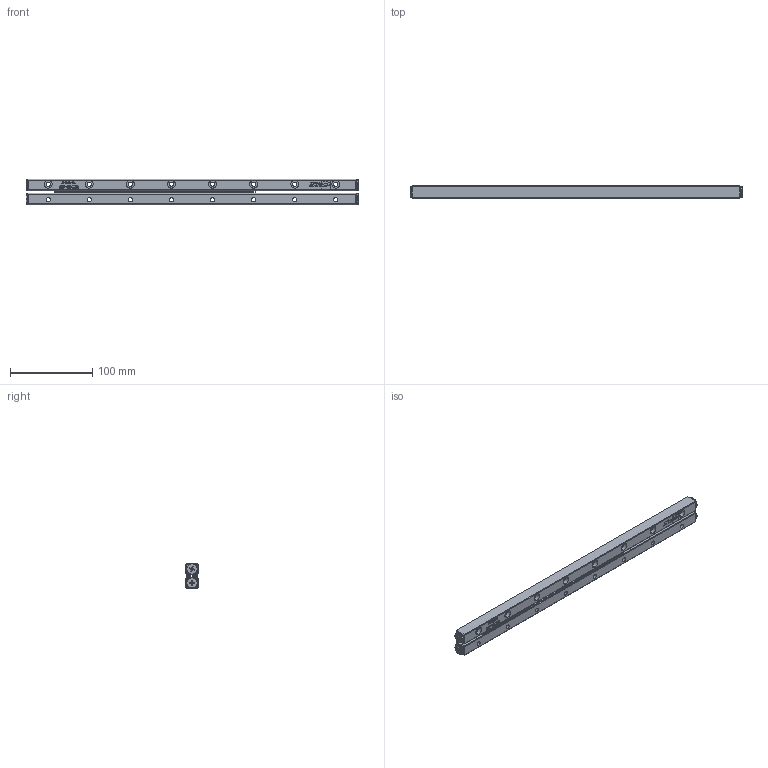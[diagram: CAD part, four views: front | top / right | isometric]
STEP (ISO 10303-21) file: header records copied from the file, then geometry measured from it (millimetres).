
FILE_DESCRIPTION (( 'STEP AP203' ), '1' );
FILE_NAME ('GRV06-400.STEP', '2012-10-17T03:54:07', ( '123' ), ( '' ), 'SwSTEP 2.0', 'SolidWorks 2012', '' );
FILE_SCHEMA (( 'CONFIG_CONTROL_DESIGN' ));
Length unit declared in the file: millimetre
Products named in the file (1): GRV06-400
Bounding box: 404 x 15 x 30.93 mm (x, y, z)
Surface area: 58612.8 mm2 (no closed solid volume)
Topology: 0 solids, 42 shells, 328 faces, 1813 edges, 1537 vertices
Faces by surface type: plane 221, cylinder 76, torus 16, cone 10, bspline 5
Entity records: 21547 total; most frequent: CARTESIAN_POINT 7750, DIRECTION 2587, ORIENTED_EDGE 2438, EDGE_CURVE 1811, VERTEX_POINT 1537, VECTOR 1163, LINE 1163, AXIS2_PLACEMENT_3D 712
